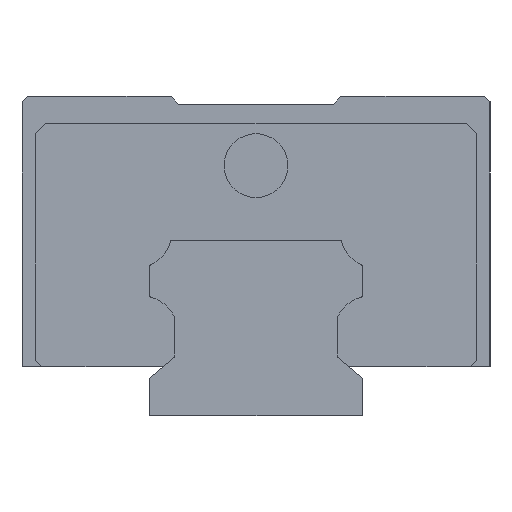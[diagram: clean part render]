
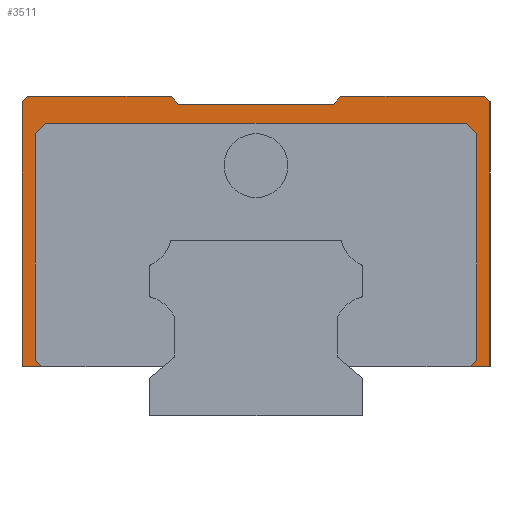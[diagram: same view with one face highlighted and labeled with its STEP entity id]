
A CAD part, left-side view. The second image highlights one B-rep face of the part: STEP entity #3511.
In plain terms, the highlighted planar face has unit normal (-1, 0, 0).
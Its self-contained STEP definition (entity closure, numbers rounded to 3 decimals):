
#40 = VECTOR ( 'NONE', #3302, 1000. ) ;
#78 = VECTOR ( 'NONE', #1378, 1000. ) ;
#244 = AXIS2_PLACEMENT_3D ( 'NONE', #4433, #4002, #2638 ) ;
#274 = DIRECTION ( 'NONE',  ( 0., 1., 0. ) ) ;
#364 = CARTESIAN_POINT ( 'NONE',  ( -39., 22., 30. ) ) ;
#387 = EDGE_CURVE ( 'NONE', #1768, #885, #3357, .T. ) ;
#425 = VECTOR ( 'NONE', #2888, 1000. ) ;
#436 = ORIENTED_EDGE ( 'NONE', *, *, #2307, .T. ) ;
#465 = CARTESIAN_POINT ( 'NONE',  ( -39., -7.333, 29.25 ) ) ;
#466 = VERTEX_POINT ( 'NONE', #5184 ) ;
#488 = LINE ( 'NONE', #1413, #5044 ) ;
#495 = CARTESIAN_POINT ( 'NONE',  ( -39., -22., 27.5 ) ) ;
#598 = CARTESIAN_POINT ( 'NONE',  ( -39., -7.333, 29.25 ) ) ;
#694 = VECTOR ( 'NONE', #3035, 1000. ) ;
#768 = ORIENTED_EDGE ( 'NONE', *, *, #3879, .F. ) ;
#876 = LINE ( 'NONE', #5602, #40 ) ;
#885 = VERTEX_POINT ( 'NONE', #3228 ) ;
#949 = EDGE_CURVE ( 'NONE', #3706, #1768, #2883, .T. ) ;
#992 = ORIENTED_EDGE ( 'NONE', *, *, #4794, .T. ) ;
#1088 = EDGE_CURVE ( 'NONE', #4006, #3181, #4365, .T. ) ;
#1091 = LINE ( 'NONE', #4826, #4582 ) ;
#1103 = VERTEX_POINT ( 'NONE', #4926 ) ;
#1160 = CARTESIAN_POINT ( 'NONE',  ( -39., -22., 4.6 ) ) ;
#1176 = EDGE_CURVE ( 'NONE', #466, #1718, #1652, .T. ) ;
#1182 = EDGE_CURVE ( 'NONE', #3181, #4387, #4830, .T. ) ;
#1189 = DIRECTION ( 'NONE',  ( 0., 0.707, 0.707 ) ) ;
#1314 = VECTOR ( 'NONE', #5654, 1000. ) ;
#1329 = VECTOR ( 'NONE', #1832, 1000. ) ;
#1378 = DIRECTION ( 'NONE',  ( 0., -0.707, -0.707 ) ) ;
#1408 = VECTOR ( 'NONE', #4149, 1000. ) ;
#1413 = CARTESIAN_POINT ( 'NONE',  ( -39., -22., 28. ) ) ;
#1419 = DIRECTION ( 'NONE',  ( 0., 1., 0. ) ) ;
#1428 = CARTESIAN_POINT ( 'NONE',  ( -39., -20.75, 5.2 ) ) ;
#1431 = VERTEX_POINT ( 'NONE', #1428 ) ;
#1473 = LINE ( 'NONE', #3350, #2289 ) ;
#1556 = DIRECTION ( 'NONE',  ( 0., 1., 0. ) ) ;
#1595 = CARTESIAN_POINT ( 'NONE',  ( -39., -21.5, 30. ) ) ;
#1608 = VERTEX_POINT ( 'NONE', #3488 ) ;
#1619 = LINE ( 'NONE', #3032, #3005 ) ;
#1631 = FACE_OUTER_BOUND ( 'NONE', #2027, .T. ) ;
#1641 = VERTEX_POINT ( 'NONE', #5802 ) ;
#1652 = LINE ( 'NONE', #3529, #3548 ) ;
#1693 = ORIENTED_EDGE ( 'NONE', *, *, #3882, .F. ) ;
#1718 = VERTEX_POINT ( 'NONE', #1595 ) ;
#1747 = CARTESIAN_POINT ( 'NONE',  ( -39., -20.75, 26.5 ) ) ;
#1768 = VERTEX_POINT ( 'NONE', #3474 ) ;
#1832 = DIRECTION ( 'NONE',  ( 0., -1., 0. ) ) ;
#1973 = EDGE_CURVE ( 'NONE', #4006, #1718, #5548, .T. ) ;
#2000 = CARTESIAN_POINT ( 'NONE',  ( -39., 22., 4.6 ) ) ;
#2027 = EDGE_LOOP ( 'NONE', ( #2998, #1693, #5766, #4408, #2457, #2712, #4703, #768, #3978, #4919, #4351, #3036, #4016, #436, #3489, #992, #6007, #6037 ) ) ;
#2051 = DIRECTION ( 'NONE',  ( 0., 0.643, 0.766 ) ) ;
#2062 = PLANE ( 'NONE',  #244 ) ;
#2097 = CARTESIAN_POINT ( 'NONE',  ( -39., 21.5, 30. ) ) ;
#2126 = VECTOR ( 'NONE', #3498, 1000. ) ;
#2236 = CARTESIAN_POINT ( 'NONE',  ( -39., -33.775, 18.225 ) ) ;
#2249 = CARTESIAN_POINT ( 'NONE',  ( -39., 20.75, 5.2 ) ) ;
#2289 = VECTOR ( 'NONE', #5234, 1000. ) ;
#2307 = EDGE_CURVE ( 'NONE', #4387, #2851, #1091, .T. ) ;
#2426 = CARTESIAN_POINT ( 'NONE',  ( -39., -22., 4.6 ) ) ;
#2455 = CARTESIAN_POINT ( 'NONE',  ( -39., 20.75, 26.5 ) ) ;
#2457 = ORIENTED_EDGE ( 'NONE', *, *, #949, .F. ) ;
#2461 = VECTOR ( 'NONE', #1556, 1000. ) ;
#2496 = EDGE_CURVE ( 'NONE', #5024, #2851, #3738, .T. ) ;
#2539 = CARTESIAN_POINT ( 'NONE',  ( -39., 22., 29.5 ) ) ;
#2591 = EDGE_CURVE ( 'NONE', #885, #3449, #876, .T. ) ;
#2619 = VECTOR ( 'NONE', #5037, 1000. ) ;
#2638 = DIRECTION ( 'NONE',  ( 0., 1., 0. ) ) ;
#2712 = ORIENTED_EDGE ( 'NONE', *, *, #3428, .F. ) ;
#2734 = CARTESIAN_POINT ( 'NONE',  ( -39., 11.775, -3.775 ) ) ;
#2754 = CARTESIAN_POINT ( 'NONE',  ( -39., -7.963, 30. ) ) ;
#2851 = VERTEX_POINT ( 'NONE', #6010 ) ;
#2883 = LINE ( 'NONE', #4767, #6112 ) ;
#2888 = DIRECTION ( 'NONE',  ( 0., 0., 1. ) ) ;
#2998 = ORIENTED_EDGE ( 'NONE', *, *, #5534, .F. ) ;
#3005 = VECTOR ( 'NONE', #3955, 1000. ) ;
#3032 = CARTESIAN_POINT ( 'NONE',  ( -39., 20.75, 30. ) ) ;
#3035 = DIRECTION ( 'NONE',  ( 0., 0.643, -0.766 ) ) ;
#3036 = ORIENTED_EDGE ( 'NONE', *, *, #1088, .T. ) ;
#3155 = LINE ( 'NONE', #2236, #2619 ) ;
#3181 = VERTEX_POINT ( 'NONE', #465 ) ;
#3228 = CARTESIAN_POINT ( 'NONE',  ( -39., 19.75, 27.5 ) ) ;
#3252 = VERTEX_POINT ( 'NONE', #2249 ) ;
#3302 = DIRECTION ( 'NONE',  ( 0., 0.707, -0.707 ) ) ;
#3350 = CARTESIAN_POINT ( 'NONE',  ( -39., -20.75, 30. ) ) ;
#3352 = EDGE_CURVE ( 'NONE', #466, #4891, #488, .T. ) ;
#3357 = LINE ( 'NONE', #495, #6127 ) ;
#3405 = EDGE_CURVE ( 'NONE', #1641, #3883, #3787, .T. ) ;
#3428 = EDGE_CURVE ( 'NONE', #1431, #3706, #1473, .T. ) ;
#3449 = VERTEX_POINT ( 'NONE', #2455 ) ;
#3474 = CARTESIAN_POINT ( 'NONE',  ( -39., -19.75, 27.5 ) ) ;
#3488 = CARTESIAN_POINT ( 'NONE',  ( -39., 20.15, 4.6 ) ) ;
#3489 = ORIENTED_EDGE ( 'NONE', *, *, #2496, .F. ) ;
#3498 = DIRECTION ( 'NONE',  ( 0., 1., 0. ) ) ;
#3511 = ADVANCED_FACE ( 'NONE', ( #1631 ), #2062, .F. ) ;
#3529 = CARTESIAN_POINT ( 'NONE',  ( -39., -22., 29.5 ) ) ;
#3548 = VECTOR ( 'NONE', #1189, 1000. ) ;
#3557 = CARTESIAN_POINT ( 'NONE',  ( -39., -7.963, 30. ) ) ;
#3675 = CARTESIAN_POINT ( 'NONE',  ( -39., 22., 30. ) ) ;
#3706 = VERTEX_POINT ( 'NONE', #1747 ) ;
#3738 = LINE ( 'NONE', #3675, #1329 ) ;
#3787 = LINE ( 'NONE', #2000, #425 ) ;
#3879 = EDGE_CURVE ( 'NONE', #4891, #1103, #5390, .T. ) ;
#3882 = EDGE_CURVE ( 'NONE', #3449, #3252, #1619, .T. ) ;
#3883 = VERTEX_POINT ( 'NONE', #2539 ) ;
#3955 = DIRECTION ( 'NONE',  ( 0., 0., -1. ) ) ;
#3972 = CARTESIAN_POINT ( 'NONE',  ( -39., 9., 4.6 ) ) ;
#3978 = ORIENTED_EDGE ( 'NONE', *, *, #3352, .F. ) ;
#4002 = DIRECTION ( 'NONE',  ( 1., 0., 0. ) ) ;
#4006 = VERTEX_POINT ( 'NONE', #2754 ) ;
#4016 = ORIENTED_EDGE ( 'NONE', *, *, #1182, .T. ) ;
#4141 = EDGE_CURVE ( 'NONE', #1103, #1431, #3155, .T. ) ;
#4149 = DIRECTION ( 'NONE',  ( 0., -1., 0. ) ) ;
#4281 = DIRECTION ( 'NONE',  ( 0., 0., -1. ) ) ;
#4351 = ORIENTED_EDGE ( 'NONE', *, *, #1973, .F. ) ;
#4365 = LINE ( 'NONE', #3557, #694 ) ;
#4387 = VERTEX_POINT ( 'NONE', #5348 ) ;
#4408 = ORIENTED_EDGE ( 'NONE', *, *, #387, .F. ) ;
#4433 = CARTESIAN_POINT ( 'NONE',  ( -39., -22., 30. ) ) ;
#4437 = LINE ( 'NONE', #3972, #4564 ) ;
#4564 = VECTOR ( 'NONE', #274, 1000. ) ;
#4582 = VECTOR ( 'NONE', #2051, 1000. ) ;
#4615 = LINE ( 'NONE', #2734, #78 ) ;
#4703 = ORIENTED_EDGE ( 'NONE', *, *, #4141, .F. ) ;
#4707 = DIRECTION ( 'NONE',  ( 0., 0.707, 0.707 ) ) ;
#4767 = CARTESIAN_POINT ( 'NONE',  ( -39., -19.625, 27.625 ) ) ;
#4794 = EDGE_CURVE ( 'NONE', #5024, #3883, #5621, .T. ) ;
#4826 = CARTESIAN_POINT ( 'NONE',  ( -39., 7.333, 29.25 ) ) ;
#4830 = LINE ( 'NONE', #598, #2461 ) ;
#4891 = VERTEX_POINT ( 'NONE', #2426 ) ;
#4919 = ORIENTED_EDGE ( 'NONE', *, *, #1176, .T. ) ;
#4926 = CARTESIAN_POINT ( 'NONE',  ( -39., -20.15, 4.6 ) ) ;
#5024 = VERTEX_POINT ( 'NONE', #2097 ) ;
#5037 = DIRECTION ( 'NONE',  ( 0., -0.707, 0.707 ) ) ;
#5044 = VECTOR ( 'NONE', #4281, 1000. ) ;
#5134 = EDGE_CURVE ( 'NONE', #1608, #1641, #4437, .T. ) ;
#5184 = CARTESIAN_POINT ( 'NONE',  ( -39., -22., 29.5 ) ) ;
#5234 = DIRECTION ( 'NONE',  ( 0., 0., 1. ) ) ;
#5348 = CARTESIAN_POINT ( 'NONE',  ( -39., 7.333, 29.25 ) ) ;
#5390 = LINE ( 'NONE', #1160, #2126 ) ;
#5534 = EDGE_CURVE ( 'NONE', #3252, #1608, #4615, .T. ) ;
#5548 = LINE ( 'NONE', #364, #1408 ) ;
#5564 = CARTESIAN_POINT ( 'NONE',  ( -39., 21.5, 30. ) ) ;
#5602 = CARTESIAN_POINT ( 'NONE',  ( -39., -2.375, 49.625 ) ) ;
#5621 = LINE ( 'NONE', #5564, #1314 ) ;
#5654 = DIRECTION ( 'NONE',  ( 0., 0.707, -0.707 ) ) ;
#5766 = ORIENTED_EDGE ( 'NONE', *, *, #2591, .F. ) ;
#5802 = CARTESIAN_POINT ( 'NONE',  ( -39., 22., 4.6 ) ) ;
#6007 = ORIENTED_EDGE ( 'NONE', *, *, #3405, .F. ) ;
#6010 = CARTESIAN_POINT ( 'NONE',  ( -39., 7.963, 30. ) ) ;
#6037 = ORIENTED_EDGE ( 'NONE', *, *, #5134, .F. ) ;
#6112 = VECTOR ( 'NONE', #4707, 1000. ) ;
#6127 = VECTOR ( 'NONE', #1419, 1000. ) ;
